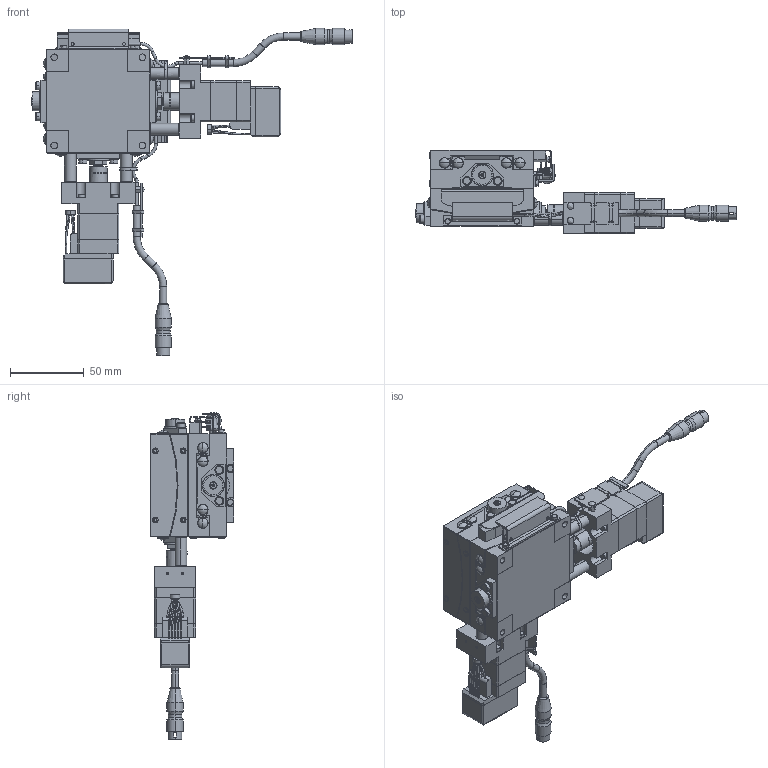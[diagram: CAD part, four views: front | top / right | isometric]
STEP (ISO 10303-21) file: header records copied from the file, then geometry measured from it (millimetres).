
FILE_DESCRIPTION (( 'STEP AP214' ), '1' );
FILE_NAME ('KAB07096AT-RZA.STEP', '2024-04-17T02:52:51', ( '' ), ( '' ), 'SwSTEP 2.0', 'SolidWorks 2017', '' );
FILE_SCHEMA (( 'AUTOMOTIVE_DESIGN' ));
Length unit declared in the file: millimetre
Products named in the file (9): KGB-BASE-07096-R; KGB-TOP-07122-R; KGB-70-T-6-R; KAB07096AT-RZA; KGB-TOP-07096-R; KGB07122AT-RC_T_ZA; KGB-BASE-07122-R; KGB07096AT-RC_T_ZA; KGB-70-ZA
Assembly tree (10 placements, depth 3):
  KAB07096AT-RZA
    KGB07122AT-RC_T_ZA
      KGB-BASE-07122-R
      KGB-TOP-07122-R
      KGB-70-ZA
      KGB-70-T-6-R
    KGB07096AT-RC_T_ZA
      KGB-BASE-07096-R
      KGB-TOP-07096-R
      KGB-70-ZA
      KGB-70-T-6-R
Bounding box: 218.2 x 57 x 222.4 mm (x, y, z)
Volume: 384375.3 mm3; surface area: 128978.5 mm2
Topology: 20 solids, 107 shells, 2997 faces, 7510 edges, 4818 vertices
Faces by surface type: plane 1493, cylinder 1038, cone 230, torus 176, sphere 40, bspline 20
Entity records: 78426 total; most frequent: CARTESIAN_POINT 14898, DIRECTION 13538, ORIENTED_EDGE 12556, EDGE_CURVE 6278, AXIS2_PLACEMENT_3D 4810, VERTEX_POINT 4098, VECTOR 3918, LINE 3918
